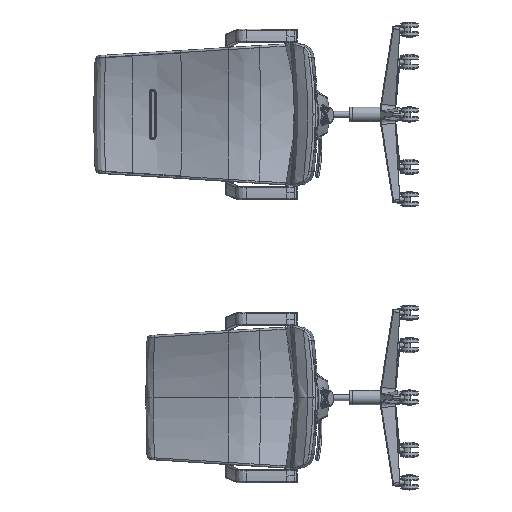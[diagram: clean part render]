
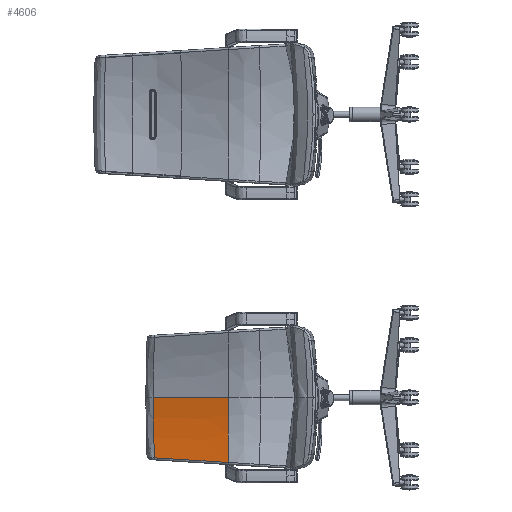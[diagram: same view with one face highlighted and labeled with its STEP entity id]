
A CAD part, left-side view. The second image highlights one B-rep face of the part: STEP entity #4606.
In plain terms, the highlighted free-form (B-spline) face has degree [3, 3] with [4, 4] control points.
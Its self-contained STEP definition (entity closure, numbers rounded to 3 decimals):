
#3514=B_SPLINE_SURFACE_WITH_KNOTS('',3,3,((#70063,#70064,#70065,#70066),
(#70067,#70068,#70069,#70070),(#70071,#70072,#70073,#70074),(#70075,#70076,
#70077,#70078)),.UNSPECIFIED.,.F.,.F.,.F.,(4,4),(4,4),(0.,1.),(0.,1.),
 .UNSPECIFIED.);
#4606=ADVANCED_FACE('',(#6482),#3514,.T.);
#6482=FACE_OUTER_BOUND('',#8274,.T.);
#8274=EDGE_LOOP('',(#15959,#15960,#15961,#15962));
#10385=B_SPLINE_CURVE_WITH_KNOTS('',3,(#70012,#70013,#70014,#70015,#70016,
#70017,#70018,#70019,#70020,#70021,#70022,#70023,#70024,#70025),
 .UNSPECIFIED.,.F.,.F.,(4,2,2,1,1,2,2,4),(0.,0.25,0.375,
0.438,0.469,0.484,0.5,
1.),.UNSPECIFIED.);
#10386=B_SPLINE_CURVE_WITH_KNOTS('',3,(#70028,#70029,#70030,#70031,#70032,
#70033,#70034,#70035,#70036,#70037),.UNSPECIFIED.,.F.,.F.,(4,2,2,2,4),(0.,
0.043,0.216,0.562,1.),
 .UNSPECIFIED.);
#10387=B_SPLINE_CURVE_WITH_KNOTS('',3,(#70039,#70040,#70041,#70042,#70043,
#70044,#70045,#70046,#70047,#70048,#70049,#70050,#70051,#70052,#70053),
 .UNSPECIFIED.,.F.,.F.,(4,2,2,2,1,2,2,4),(0.,0.25,0.375,
0.437,0.469,0.484,0.5,
1.),.UNSPECIFIED.);
#10388=B_SPLINE_CURVE_WITH_KNOTS('',3,(#70055,#70056,#70057,#70058,#70059,
#70060,#70061,#70062),.UNSPECIFIED.,.F.,.F.,(4,2,2,4),(0.,0.394,
0.718,1.),.UNSPECIFIED.);
#15959=ORIENTED_EDGE('',*,*,#24403,.T.);
#15960=ORIENTED_EDGE('',*,*,#24404,.T.);
#15961=ORIENTED_EDGE('',*,*,#24405,.T.);
#15962=ORIENTED_EDGE('',*,*,#24406,.F.);
#21062=VERTEX_POINT('',#70026);
#21063=VERTEX_POINT('',#70027);
#21064=VERTEX_POINT('',#70038);
#21065=VERTEX_POINT('',#70054);
#24403=EDGE_CURVE('',#21062,#21063,#10385,.T.);
#24404=EDGE_CURVE('',#21063,#21064,#10386,.T.);
#24405=EDGE_CURVE('',#21064,#21065,#10387,.T.);
#24406=EDGE_CURVE('',#21062,#21065,#10388,.T.);
#70012=CARTESIAN_POINT('',(454.401,565.689,189.));
#70013=CARTESIAN_POINT('',(454.401,565.689,170.768));
#70014=CARTESIAN_POINT('',(453.722,565.578,152.689));
#70015=CARTESIAN_POINT('',(451.732,565.25,125.795));
#70016=CARTESIAN_POINT('',(450.907,565.113,116.868));
#70017=CARTESIAN_POINT('',(449.433,564.869,103.532));
#70018=CARTESIAN_POINT('',(448.637,564.737,96.879));
#70019=CARTESIAN_POINT('',(447.606,564.566,89.14));
#70020=CARTESIAN_POINT('',(447.142,564.489,85.828));
#70021=CARTESIAN_POINT('',(446.828,564.437,83.622));
#70022=CARTESIAN_POINT('',(446.676,564.412,82.566));
#70023=CARTESIAN_POINT('',(441.109,563.488,44.643));
#70024=CARTESIAN_POINT('',(433.196,562.171,9.545));
#70025=CARTESIAN_POINT('',(423.477,560.527,-23.903));
#70026=CARTESIAN_POINT('',(454.401,565.689,189.));
#70027=CARTESIAN_POINT('',(423.477,560.527,-23.903));
#70028=CARTESIAN_POINT('',(423.477,560.527,-23.903));
#70029=CARTESIAN_POINT('',(422.098,556.78,-24.138));
#70030=CARTESIAN_POINT('',(420.719,553.032,-24.374));
#70031=CARTESIAN_POINT('',(413.824,534.295,-25.551));
#70032=CARTESIAN_POINT('',(408.308,519.306,-26.493));
#70033=CARTESIAN_POINT('',(391.759,474.338,-29.318));
#70034=CARTESIAN_POINT('',(380.725,444.359,-31.202));
#70035=CARTESIAN_POINT('',(355.688,376.345,-35.475));
#70036=CARTESIAN_POINT('',(341.685,338.309,-37.866));
#70037=CARTESIAN_POINT('',(327.68,300.273,-40.256));
#70038=CARTESIAN_POINT('',(327.68,300.273,-40.256));
#70039=CARTESIAN_POINT('',(327.68,300.273,-40.256));
#70040=CARTESIAN_POINT('',(332.833,300.13,-22.007));
#70041=CARTESIAN_POINT('',(337.468,299.997,-3.425));
#70042=CARTESIAN_POINT('',(343.537,299.819,24.955));
#70043=CARTESIAN_POINT('',(345.413,299.763,34.501));
#70044=CARTESIAN_POINT('',(347.993,299.685,48.947));
#70045=CARTESIAN_POINT('',(348.814,299.661,53.784));
#70046=CARTESIAN_POINT('',(349.986,299.625,61.072));
#70047=CARTESIAN_POINT('',(350.556,299.608,64.724));
#70048=CARTESIAN_POINT('',(351.104,299.591,68.388));
#70049=CARTESIAN_POINT('',(351.464,299.581,70.834));
#70050=CARTESIAN_POINT('',(351.647,299.575,72.091));
#70051=CARTESIAN_POINT('',(357.26,299.407,111.422));
#70052=CARTESIAN_POINT('',(360.075,299.321,149.97));
#70053=CARTESIAN_POINT('',(360.075,299.321,189.));
#70054=CARTESIAN_POINT('',(360.075,299.321,189.));
#70055=CARTESIAN_POINT('',(454.401,565.689,189.));
#70056=CARTESIAN_POINT('',(442.013,530.707,189.));
#70057=CARTESIAN_POINT('',(429.626,495.725,189.));
#70058=CARTESIAN_POINT('',(407.042,431.952,189.));
#70059=CARTESIAN_POINT('',(396.847,403.16,189.));
#70060=CARTESIAN_POINT('',(377.792,349.353,189.));
#70061=CARTESIAN_POINT('',(368.934,324.337,189.));
#70062=CARTESIAN_POINT('',(360.075,299.321,189.));
#70063=CARTESIAN_POINT('',(424.22,565.594,-27.652));
#70064=CARTESIAN_POINT('',(444.743,566.762,44.618));
#70065=CARTESIAN_POINT('',(454.989,567.35,116.81));
#70066=CARTESIAN_POINT('',(454.989,567.35,189.));
#70067=CARTESIAN_POINT('',(391.733,476.672,-32.338));
#70068=CARTESIAN_POINT('',(411.869,474.868,41.496));
#70069=CARTESIAN_POINT('',(421.922,473.971,115.25));
#70070=CARTESIAN_POINT('',(421.922,473.971,189.));
#70071=CARTESIAN_POINT('',(359.245,387.75,-37.027));
#70072=CARTESIAN_POINT('',(378.995,382.974,38.373));
#70073=CARTESIAN_POINT('',(388.854,380.591,113.688));
#70074=CARTESIAN_POINT('',(388.854,380.591,189.));
#70075=CARTESIAN_POINT('',(326.757,298.829,-41.717));
#70076=CARTESIAN_POINT('',(346.122,291.08,35.249));
#70077=CARTESIAN_POINT('',(355.787,287.211,112.126));
#70078=CARTESIAN_POINT('',(355.787,287.211,189.));
